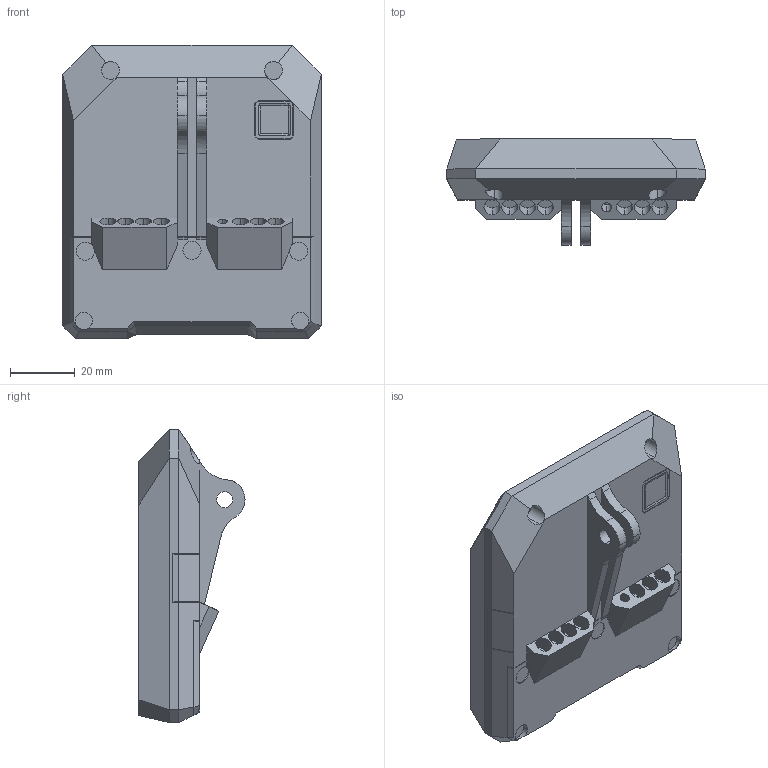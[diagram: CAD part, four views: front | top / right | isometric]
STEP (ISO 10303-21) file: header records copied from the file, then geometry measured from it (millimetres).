
FILE_DESCRIPTION (( 'STEP AP203' ), '1' );
FILE_NAME ('Óïðîùåííàÿ ìîäåëü êîðïóñà äèñïëåÿ.STEP', '2023-03-15T14:31:59', ( '' ), ( '' ), 'SwSTEP 2.0', 'SolidWorks 2018', '' );
FILE_SCHEMA (( 'CONFIG_CONTROL_DESIGN' ));
Length unit declared in the file: millimetre
Products named in the file (1): Óïðîùåííàÿ ìîäåëü êîðïóñà äèñïëåÿ
Bounding box: 80 x 32.8 x 90.8 mm (x, y, z)
Volume: 123350.3 mm3; surface area: 21366.7 mm2
Topology: 1 solids, 1 shells, 272 faces, 720 edges, 462 vertices
Faces by surface type: plane 218, cylinder 38, bspline 16
Entity records: 8436 total; most frequent: CARTESIAN_POINT 1702, ORIENTED_EDGE 1440, DIRECTION 1277, EDGE_CURVE 720, VECTOR 611, LINE 611, VERTEX_POINT 462, AXIS2_PLACEMENT_3D 333
